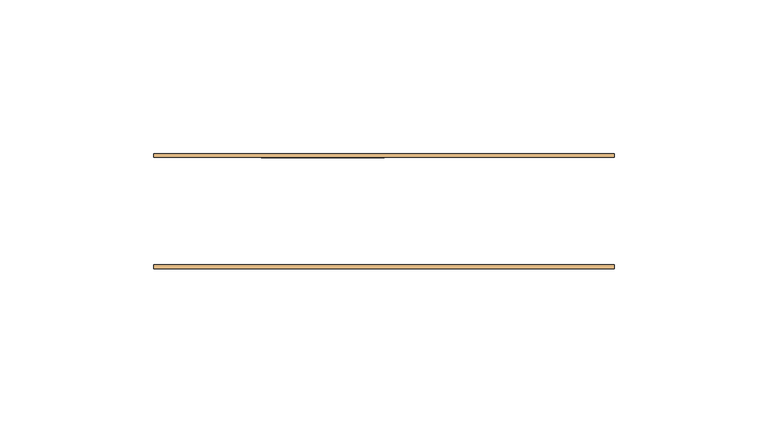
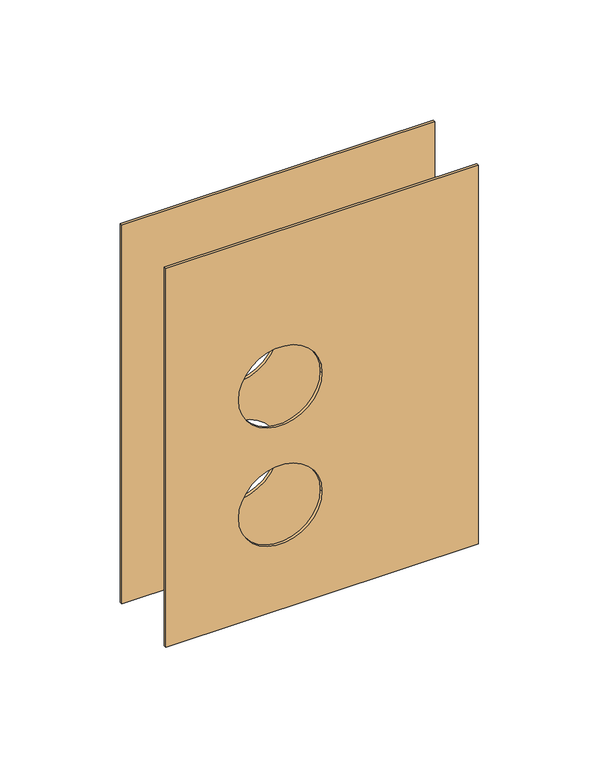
"""IFC4 building model written with IfcOpenShell, lengths in millimetres: door geometry, FDE_RP02_Reforço : FDE_RP02_Reforço."""

from ifc_helpers import new_model, si_unit, point, frame, frame_2d, origin, origin_2d, place, context, project, spatial, polyline, circle_curve, trimmed, segment, composite_curve, outline, extrude, source, transform, mapped, element, save


def door_0fbeb080(model_context):
    return source(origin(), model_context, "Body", "SweptSolid", [
        extrude(outline(polyline([(79.0, 95.0), (79.0, -55.0), (-113.0, -55.0), (-113.0, 95.0), (79.0, 95.0)]), holes=[composite_curve([segment(trimmed(circle_curve(origin_2d(), 20.0), [point((0.0, -20.0))], [point((0.0, 20.0))], True, "CARTESIAN"), True, "CONTINUOUS"), segment(trimmed(circle_curve(origin_2d(), 20.0), [point((0.0, 20.0))], [point((0.0, -20.0))], True, "CARTESIAN"), True, "CONTINUOUS")], self_intersect=False), composite_curve([segment(trimmed(circle_curve(frame_2d((-60.005534, 0.0)), 20.0), [point((-60.005534, -20.0))], [point((-60.005534, 20.0))], True, "CARTESIAN"), True, "CONTINUOUS"), segment(trimmed(circle_curve(frame_2d((-60.005534, 0.0)), 20.0), [point((-60.005534, 20.0))], [point((-60.005534, -20.0))], True, "CARTESIAN"), True, "CONTINUOUS")], self_intersect=False)]), frame((0.0, -36.25, 0.0), z_axis=(0.0, 1.0, 0.0), x_axis=(0.0, 0.0, 1.0)), (0.0, 0.0, 1.0), 1.25),
        extrude(outline(polyline([(79.0, 95.0), (79.0, -55.0), (-113.0, -55.0), (-113.0, 95.0), (79.0, 95.0)]), holes=[composite_curve([segment(trimmed(circle_curve(origin_2d(), 20.0), [point((0.0, -20.0))], [point((0.0, 20.0))], True, "CARTESIAN"), True, "CONTINUOUS"), segment(trimmed(circle_curve(origin_2d(), 20.0), [point((0.0, 20.0))], [point((0.0, -20.0))], True, "CARTESIAN"), True, "CONTINUOUS")], self_intersect=False), composite_curve([segment(trimmed(circle_curve(frame_2d((-60.005534, 0.0)), 20.0), [point((-60.005534, -20.0))], [point((-60.005534, 20.0))], True, "CARTESIAN"), True, "CONTINUOUS"), segment(trimmed(circle_curve(frame_2d((-60.005534, 0.0)), 20.0), [point((-60.005534, 20.0))], [point((-60.005534, -20.0))], True, "CARTESIAN"), True, "CONTINUOUS")], self_intersect=False)]), frame((0.0, 0.0, 0.0), z_axis=(0.0, 1.0, 0.0), x_axis=(0.0, 0.0, 1.0)), (0.0, 0.0, 1.0), 1.25),
    ])


if __name__ == "__main__":
    model = new_model("IFC4")
    model_context = context("Model", 3, world=origin())
    ifc_project = project(units=[si_unit("LENGTHUNIT", "METRE", prefix="MILLI")], contexts=[model_context])
    site = spatial("IfcSite", under=ifc_project)
    building = spatial("IfcBuilding", under=site)
    placement = place(None, origin())
    door_shape = door_0fbeb080(model_context)
    element("IfcDoor", 1, ObjectType="FDE_RP02_Reforço : FDE_RP02_Reforço", at=placement, inside=building, context=model_context, shape_type="MappedRepresentation", body=[
        mapped(door_shape, transform((0.0, 0.0, 0.0), x_axis=(1.0, 0.0, 0.0), y_axis=(0.0, 1.0, 0.0), z_axis=(0.0, 0.0, 1.0))),
    ])
    save(model, "model.ifc")
